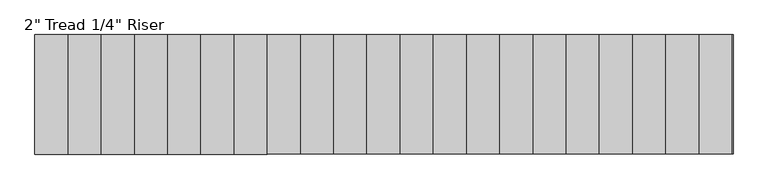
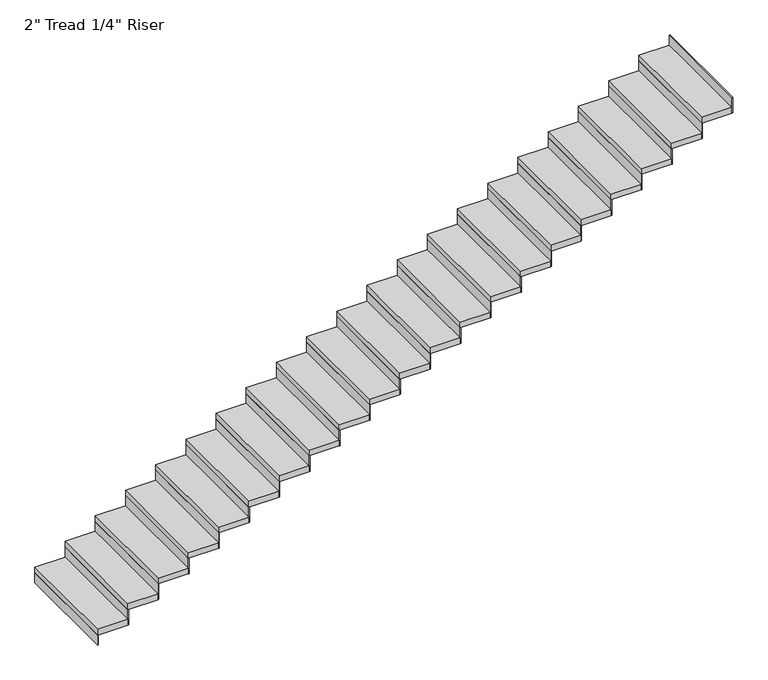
"""IFC4 building model written with IfcOpenShell, lengths in millimetres: stair flight geometry."""

from ifc_helpers import new_model, si_unit, frame, origin, origin_with_axes, place, context, project, spatial, polyline, outline, extrude, source, transform, mapped, element, save


def stair_flight_54c0e317(model_context):
    return source(origin(), model_context, "Body", "SweptSolid", [
        extrude(outline(polyline([(-14491.7664794, -18868.6990002), (-14498.1164794, -18868.6990002), (-14498.1164794, -17954.2990002), (-14491.7664794, -17954.2990002), (-14491.7664794, -18868.6990002)])), origin_with_axes(), (0.0, 0.0, 1.0), 87.7454545),
        extrude(outline(polyline([(-14244.1164794, -17954.2990002), (-14244.1164794, -18868.6990002), (-14498.1164794, -18868.6990002), (-14498.1164794, -17954.2990002), (-14244.1164794, -17954.2990002)])), frame((0.0, 0.0, 87.7454545), z_axis=(0.0, 0.0, 1.0), x_axis=(1.0, 0.0, 0.0)), (0.0, 0.0, 1.0), 50.8),
        extrude(outline(polyline([(-14237.7664794, -18868.6990002), (-14244.1164794, -18868.6990002), (-14244.1164794, -17954.2990002), (-14237.7664794, -17954.2990002), (-14237.7664794, -18868.6990002)])), frame((0.0, 0.0, 87.7454545), z_axis=(0.0, 0.0, 1.0), x_axis=(1.0, 0.0, 0.0)), (0.0, 0.0, 1.0), 138.5454545),
        extrude(outline(polyline([(-13990.1164794, -17954.2990002), (-13990.1164794, -18868.6990002), (-14244.1164794, -18868.6990002), (-14244.1164794, -17954.2990002), (-13990.1164794, -17954.2990002)])), frame((0.0, 0.0, 226.2909091), z_axis=(0.0, 0.0, 1.0), x_axis=(1.0, 0.0, 0.0)), (0.0, 0.0, 1.0), 50.8),
        extrude(outline(polyline([(-13983.7664794, -18868.6990002), (-13990.1164794, -18868.6990002), (-13990.1164794, -17954.2990002), (-13983.7664794, -17954.2990002), (-13983.7664794, -18868.6990002)])), frame((0.0, 0.0, 226.2909091), z_axis=(0.0, 0.0, 1.0), x_axis=(1.0, 0.0, 0.0)), (0.0, 0.0, 1.0), 138.5454545),
        extrude(outline(polyline([(-13736.1164794, -17954.2990002), (-13736.1164794, -18868.6990002), (-13990.1164794, -18868.6990002), (-13990.1164794, -17954.2990002), (-13736.1164794, -17954.2990002)])), frame((0.0, 0.0, 364.8363636), z_axis=(0.0, 0.0, 1.0), x_axis=(1.0, 0.0, 0.0)), (0.0, 0.0, 1.0), 50.8),
        extrude(outline(polyline([(-13729.7664794, -18868.6990002), (-13736.1164794, -18868.6990002), (-13736.1164794, -17954.2990002), (-13729.7664794, -17954.2990002), (-13729.7664794, -18868.6990002)])), frame((0.0, 0.0, 364.8363636), z_axis=(0.0, 0.0, 1.0), x_axis=(1.0, 0.0, 0.0)), (0.0, 0.0, 1.0), 138.5454545),
        extrude(outline(polyline([(-13482.1164794, -17954.2990002), (-13482.1164794, -18868.6990002), (-13736.1164794, -18868.6990002), (-13736.1164794, -17954.2990002), (-13482.1164794, -17954.2990002)])), frame((0.0, 0.0, 503.3818182), z_axis=(0.0, 0.0, 1.0), x_axis=(1.0, 0.0, 0.0)), (0.0, 0.0, 1.0), 50.8),
        extrude(outline(polyline([(-13475.7664794, -18868.6990002), (-13482.1164794, -18868.6990002), (-13482.1164794, -17954.2990002), (-13475.7664794, -17954.2990002), (-13475.7664794, -18868.6990002)])), frame((0.0, 0.0, 503.3818182), z_axis=(0.0, 0.0, 1.0), x_axis=(1.0, 0.0, 0.0)), (0.0, 0.0, 1.0), 138.5454545),
        extrude(outline(polyline([(-13228.1164794, -17954.2990002), (-13228.1164794, -18868.6990002), (-13482.1164794, -18868.6990002), (-13482.1164794, -17954.2990002), (-13228.1164794, -17954.2990002)])), frame((0.0, 0.0, 641.9272727), z_axis=(0.0, 0.0, 1.0), x_axis=(1.0, 0.0, 0.0)), (0.0, 0.0, 1.0), 50.8),
        extrude(outline(polyline([(-13221.7664794, -18868.6990002), (-13228.1164794, -18868.6990002), (-13228.1164794, -17954.2990002), (-13221.7664794, -17954.2990002), (-13221.7664794, -18868.6990002)])), frame((0.0, 0.0, 641.9272727), z_axis=(0.0, 0.0, 1.0), x_axis=(1.0, 0.0, 0.0)), (0.0, 0.0, 1.0), 138.5454545),
        extrude(outline(polyline([(-12974.1164794, -17954.2990002), (-12974.1164794, -18868.6990002), (-13228.1164794, -18868.6990002), (-13228.1164794, -17954.2990002), (-12974.1164794, -17954.2990002)])), frame((0.0, 0.0, 780.4727273), z_axis=(0.0, 0.0, 1.0), x_axis=(1.0, 0.0, 0.0)), (0.0, 0.0, 1.0), 50.8),
        extrude(outline(polyline([(-12967.7664794, -18868.6990002), (-12974.1164794, -18868.6990002), (-12974.1164794, -17954.2990002), (-12967.7664794, -17954.2990002), (-12967.7664794, -18868.6990002)])), frame((0.0, 0.0, 780.4727273), z_axis=(0.0, 0.0, 1.0), x_axis=(1.0, 0.0, 0.0)), (0.0, 0.0, 1.0), 138.5454545),
        extrude(outline(polyline([(-12720.1164794, -17954.2990002), (-12720.1164794, -18868.6990002), (-12974.1164794, -18868.6990002), (-12974.1164794, -17954.2990002), (-12720.1164794, -17954.2990002)])), frame((0.0, 0.0, 919.0181818), z_axis=(0.0, 0.0, 1.0), x_axis=(1.0, 0.0, 0.0)), (0.0, 0.0, 1.0), 50.8),
        extrude(outline(polyline([(-12713.7664794, -18868.6990002), (-12720.1164794, -18868.6990002), (-12720.1164794, -17954.2990002), (-12713.7664794, -17954.2990002), (-12713.7664794, -18868.6990002)])), frame((0.0, 0.0, 919.0181818), z_axis=(0.0, 0.0, 1.0), x_axis=(1.0, 0.0, 0.0)), (0.0, 0.0, 1.0), 138.5454545),
        extrude(outline(polyline([(-12466.1164794, -17954.2990002), (-12466.1164794, -18868.6990002), (-12720.1164794, -18868.6990002), (-12720.1164794, -17954.2990002), (-12466.1164794, -17954.2990002)])), frame((0.0, 0.0, 1057.5636364), z_axis=(0.0, 0.0, 1.0), x_axis=(1.0, 0.0, 0.0)), (0.0, 0.0, 1.0), 50.8),
        extrude(outline(polyline([(-12459.7664794, -18868.6990002), (-12466.1164794, -18868.6990002), (-12466.1164794, -17954.2990002), (-12459.7664794, -17954.2990002), (-12459.7664794, -18868.6990002)])), frame((0.0, 0.0, 1057.5636364), z_axis=(0.0, 0.0, 1.0), x_axis=(1.0, 0.0, 0.0)), (0.0, 0.0, 1.0), 138.5454545),
        extrude(outline(polyline([(-12212.1164794, -17954.2990002), (-12212.1164794, -18868.6990002), (-12466.1164794, -18868.6990002), (-12466.1164794, -17954.2990002), (-12212.1164794, -17954.2990002)])), frame((0.0, 0.0, 1196.1090909), z_axis=(0.0, 0.0, 1.0), x_axis=(1.0, 0.0, 0.0)), (0.0, 0.0, 1.0), 50.8),
        extrude(outline(polyline([(-12205.7664794, -18868.6990002), (-12212.1164794, -18868.6990002), (-12212.1164794, -17954.2990002), (-12205.7664794, -17954.2990002), (-12205.7664794, -18868.6990002)])), frame((0.0, 0.0, 1196.1090909), z_axis=(0.0, 0.0, 1.0), x_axis=(1.0, 0.0, 0.0)), (0.0, 0.0, 1.0), 138.5454545),
        extrude(outline(polyline([(-11958.1164794, -17954.2990002), (-11958.1164794, -18868.6990002), (-12212.1164794, -18868.6990002), (-12212.1164794, -17954.2990002), (-11958.1164794, -17954.2990002)])), frame((0.0, 0.0, 1334.6545455), z_axis=(0.0, 0.0, 1.0), x_axis=(1.0, 0.0, 0.0)), (0.0, 0.0, 1.0), 50.8),
        extrude(outline(polyline([(-11951.7664794, -18868.6990002), (-11958.1164794, -18868.6990002), (-11958.1164794, -17954.2990002), (-11951.7664794, -17954.2990002), (-11951.7664794, -18868.6990002)])), frame((0.0, 0.0, 1334.6545455), z_axis=(0.0, 0.0, 1.0), x_axis=(1.0, 0.0, 0.0)), (0.0, 0.0, 1.0), 138.5454545),
        extrude(outline(polyline([(-11704.1164794, -17954.2990002), (-11704.1164794, -18868.6990002), (-11958.1164794, -18868.6990002), (-11958.1164794, -17954.2990002), (-11704.1164794, -17954.2990002)])), frame((0.0, 0.0, 1473.2), z_axis=(0.0, 0.0, 1.0), x_axis=(1.0, 0.0, 0.0)), (0.0, 0.0, 1.0), 50.8),
        extrude(outline(polyline([(-11697.7664794, -18868.6990002), (-11704.1164794, -18868.6990002), (-11704.1164794, -17954.2990002), (-11697.7664794, -17954.2990002), (-11697.7664794, -18868.6990002)])), frame((0.0, 0.0, 1473.2), z_axis=(0.0, 0.0, 1.0), x_axis=(1.0, 0.0, 0.0)), (0.0, 0.0, 1.0), 138.5454545),
        extrude(outline(polyline([(-11450.1164794, -17954.2990002), (-11450.1164794, -18868.6990002), (-11704.1164794, -18868.6990002), (-11704.1164794, -17954.2990002), (-11450.1164794, -17954.2990002)])), frame((0.0, 0.0, 1611.7454545), z_axis=(0.0, 0.0, 1.0), x_axis=(1.0, 0.0, 0.0)), (0.0, 0.0, 1.0), 50.8),
        extrude(outline(polyline([(-11443.7664794, -18868.6990002), (-11450.1164794, -18868.6990002), (-11450.1164794, -17954.2990002), (-11443.7664794, -17954.2990002), (-11443.7664794, -18868.6990002)])), frame((0.0, 0.0, 1611.7454545), z_axis=(0.0, 0.0, 1.0), x_axis=(1.0, 0.0, 0.0)), (0.0, 0.0, 1.0), 138.5454545),
        extrude(outline(polyline([(-11196.1164794, -17954.2990002), (-11196.1164794, -18868.6990002), (-11450.1164794, -18868.6990002), (-11450.1164794, -17954.2990002), (-11196.1164794, -17954.2990002)])), frame((0.0, 0.0, 1750.2909091), z_axis=(0.0, 0.0, 1.0), x_axis=(1.0, 0.0, 0.0)), (0.0, 0.0, 1.0), 50.8),
        extrude(outline(polyline([(-11189.7664794, -18868.6990002), (-11196.1164794, -18868.6990002), (-11196.1164794, -17954.2990002), (-11189.7664794, -17954.2990002), (-11189.7664794, -18868.6990002)])), frame((0.0, 0.0, 1750.2909091), z_axis=(0.0, 0.0, 1.0), x_axis=(1.0, 0.0, 0.0)), (0.0, 0.0, 1.0), 138.5454545),
        extrude(outline(polyline([(-10942.1164794, -17954.2990002), (-10942.1164794, -18868.6990002), (-11196.1164794, -18868.6990002), (-11196.1164794, -17954.2990002), (-10942.1164794, -17954.2990002)])), frame((0.0, 0.0, 1888.8363636), z_axis=(0.0, 0.0, 1.0), x_axis=(1.0, 0.0, 0.0)), (0.0, 0.0, 1.0), 50.8),
        extrude(outline(polyline([(-10935.7664794, -18868.6990002), (-10942.1164794, -18868.6990002), (-10942.1164794, -17954.2990002), (-10935.7664794, -17954.2990002), (-10935.7664794, -18868.6990002)])), frame((0.0, 0.0, 1888.8363636), z_axis=(0.0, 0.0, 1.0), x_axis=(1.0, 0.0, 0.0)), (0.0, 0.0, 1.0), 138.5454545),
        extrude(outline(polyline([(-10688.1164794, -17954.2990002), (-10688.1164794, -18868.6990002), (-10942.1164794, -18868.6990002), (-10942.1164794, -17954.2990002), (-10688.1164794, -17954.2990002)])), frame((0.0, 0.0, 2027.3818182), z_axis=(0.0, 0.0, 1.0), x_axis=(1.0, 0.0, 0.0)), (0.0, 0.0, 1.0), 50.8),
        extrude(outline(polyline([(-10681.7664794, -18868.6990002), (-10688.1164794, -18868.6990002), (-10688.1164794, -17954.2990002), (-10681.7664794, -17954.2990002), (-10681.7664794, -18868.6990002)])), frame((0.0, 0.0, 2027.3818182), z_axis=(0.0, 0.0, 1.0), x_axis=(1.0, 0.0, 0.0)), (0.0, 0.0, 1.0), 138.5454545),
        extrude(outline(polyline([(-10434.1164794, -17954.2990002), (-10434.1164794, -18868.6990002), (-10688.1164794, -18868.6990002), (-10688.1164794, -17954.2990002), (-10434.1164794, -17954.2990002)])), frame((0.0, 0.0, 2165.9272727), z_axis=(0.0, 0.0, 1.0), x_axis=(1.0, 0.0, 0.0)), (0.0, 0.0, 1.0), 50.8),
        extrude(outline(polyline([(-10427.7664794, -18868.6990002), (-10434.1164794, -18868.6990002), (-10434.1164794, -17954.2990002), (-10427.7664794, -17954.2990002), (-10427.7664794, -18868.6990002)])), frame((0.0, 0.0, 2165.9272727), z_axis=(0.0, 0.0, 1.0), x_axis=(1.0, 0.0, 0.0)), (0.0, 0.0, 1.0), 138.5454545),
        extrude(outline(polyline([(-10180.1164794, -17954.2990002), (-10180.1164794, -18868.6990002), (-10434.1164794, -18868.6990002), (-10434.1164794, -17954.2990002), (-10180.1164794, -17954.2990002)])), frame((0.0, 0.0, 2304.4727273), z_axis=(0.0, 0.0, 1.0), x_axis=(1.0, 0.0, 0.0)), (0.0, 0.0, 1.0), 50.8),
        extrude(outline(polyline([(-10173.7664794, -18868.6990002), (-10180.1164794, -18868.6990002), (-10180.1164794, -17954.2990002), (-10173.7664794, -17954.2990002), (-10173.7664794, -18868.6990002)])), frame((0.0, 0.0, 2304.4727273), z_axis=(0.0, 0.0, 1.0), x_axis=(1.0, 0.0, 0.0)), (0.0, 0.0, 1.0), 138.5454545),
        extrude(outline(polyline([(-9926.1164794, -17954.2990002), (-9926.1164794, -18868.6990002), (-10180.1164794, -18868.6990002), (-10180.1164794, -17954.2990002), (-9926.1164794, -17954.2990002)])), frame((0.0, 0.0, 2443.0181818), z_axis=(0.0, 0.0, 1.0), x_axis=(1.0, 0.0, 0.0)), (0.0, 0.0, 1.0), 50.8),
        extrude(outline(polyline([(-9919.7664794, -18868.6990002), (-9926.1164794, -18868.6990002), (-9926.1164794, -17954.2990002), (-9919.7664794, -17954.2990002), (-9919.7664794, -18868.6990002)])), frame((0.0, 0.0, 2443.0181818), z_axis=(0.0, 0.0, 1.0), x_axis=(1.0, 0.0, 0.0)), (0.0, 0.0, 1.0), 138.5454545),
        extrude(outline(polyline([(-9672.1164794, -17954.2990002), (-9672.1164794, -18868.6990002), (-9926.1164794, -18868.6990002), (-9926.1164794, -17954.2990002), (-9672.1164794, -17954.2990002)])), frame((0.0, 0.0, 2581.5636364), z_axis=(0.0, 0.0, 1.0), x_axis=(1.0, 0.0, 0.0)), (0.0, 0.0, 1.0), 50.8),
        extrude(outline(polyline([(-9665.7664794, -18868.6990002), (-9672.1164794, -18868.6990002), (-9672.1164794, -17954.2990002), (-9665.7664794, -17954.2990002), (-9665.7664794, -18868.6990002)])), frame((0.0, 0.0, 2581.5636364), z_axis=(0.0, 0.0, 1.0), x_axis=(1.0, 0.0, 0.0)), (0.0, 0.0, 1.0), 138.5454545),
        extrude(outline(polyline([(-9418.1164794, -17954.2990002), (-9418.1164794, -18868.6990002), (-9672.1164794, -18868.6990002), (-9672.1164794, -17954.2990002), (-9418.1164794, -17954.2990002)])), frame((0.0, 0.0, 2720.1090909), z_axis=(0.0, 0.0, 1.0), x_axis=(1.0, 0.0, 0.0)), (0.0, 0.0, 1.0), 50.8),
        extrude(outline(polyline([(-9411.7664794, -18868.6990002), (-9418.1164794, -18868.6990002), (-9418.1164794, -17954.2990002), (-9411.7664794, -17954.2990002), (-9411.7664794, -18868.6990002)])), frame((0.0, 0.0, 2720.1090909), z_axis=(0.0, 0.0, 1.0), x_axis=(1.0, 0.0, 0.0)), (0.0, 0.0, 1.0), 138.5454545),
        extrude(outline(polyline([(-9157.7664794, -18868.6990002), (-9164.1164794, -18868.6990002), (-9164.1164794, -17954.2990002), (-9157.7664794, -17954.2990002), (-9157.7664794, -18868.6990002)])), frame((0.0, 0.0, 2858.6545455), z_axis=(0.0, 0.0, 1.0), x_axis=(1.0, 0.0, 0.0)), (0.0, 0.0, 1.0), 138.5454545),
        extrude(outline(polyline([(-9164.1164794, -17954.2990002), (-9164.1164794, -18868.6990002), (-9418.1164794, -18868.6990002), (-9418.1164794, -17954.2990002), (-9164.1164794, -17954.2990002)])), frame((0.0, 0.0, 2858.6545455), z_axis=(0.0, 0.0, 1.0), x_axis=(1.0, 0.0, 0.0)), (0.0, 0.0, 1.0), 50.8),
    ])


if __name__ == "__main__":
    model = new_model("IFC4")
    model_context = context("Model", 3, world=origin())
    ifc_project = project(units=[si_unit("LENGTHUNIT", "METRE", prefix="MILLI")], contexts=[model_context])
    site = spatial("IfcSite", under=ifc_project)
    building = spatial("IfcBuilding", under=site)
    placement = place(None, origin())
    stair_flight_shape = stair_flight_54c0e317(model_context)
    element("IfcStairFlight", 1, ObjectType="2\" Tread 1/4\" Riser", at=placement, inside=building, context=model_context, shape_type="MappedRepresentation", body=[
        mapped(stair_flight_shape, transform((0.0, 0.0, 0.0), x_axis=(1.0, 0.0, 0.0), y_axis=(0.0, 1.0, 0.0), z_axis=(0.0, 0.0, 1.0))),
    ])
    save(model, "model.ifc")
